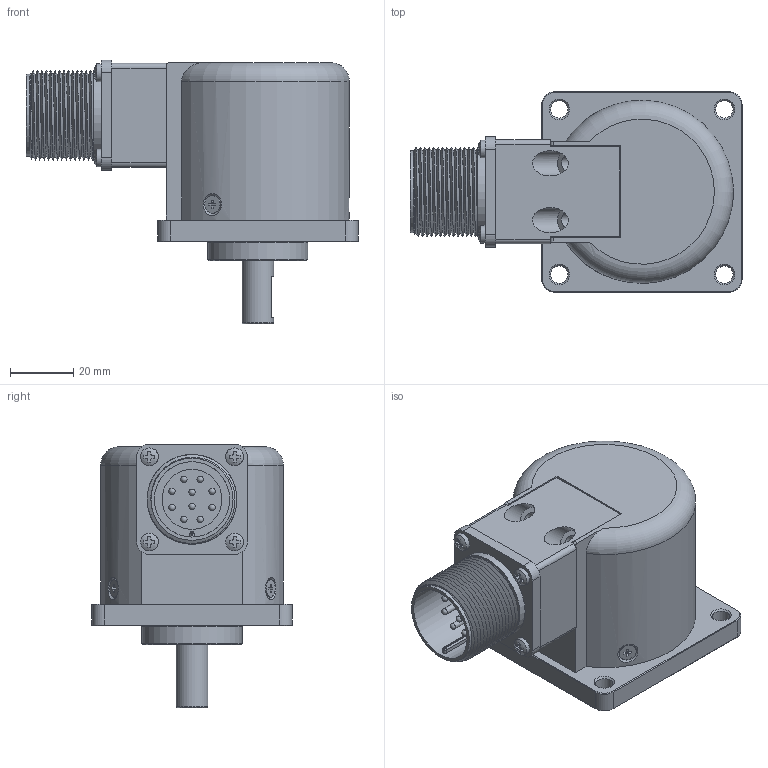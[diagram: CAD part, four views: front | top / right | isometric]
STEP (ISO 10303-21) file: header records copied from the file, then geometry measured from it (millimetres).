
FILE_DESCRIPTION( ( 'Unknown' ), '1' );
FILE_NAME( 'C:/Users/malfermoa/Desktop/step/EL_63D_albero 10 X uscita MR.stp', 'Unknown', ( 'Unknown' ), ( 'Unknown' ), 'PSStep 15.0.49', 'Unknown', ' ' );
FILE_SCHEMA( ( 'AUTOMOTIVE_DESIGN { 1 0 10303 214 1 1 1 1 }' ) );
Length unit declared in the file: millimetre
Products named in the file (1): 41330183B1
Bounding box: 105.25 x 63.5 x 83.6 mm (x, y, z)
Volume: 105491.1 mm3; surface area: 61340.1 mm2
Topology: 1 solids, 9 shells, 689 faces, 1782 edges, 1147 vertices
Faces by surface type: plane 280, cylinder 238, bspline 63, cone 55, torus 41, sphere 12
Full cylindrical faces by diameter (mm): 2 x22, 2.05 x2, 2.2 x12, 2.459 x3, 2.5 x7, 2.6 x10, 3 x5, 3.5 x3, 4.5 x2, 5.5 x4, 5.6 x7, 6 x1, 7 x1, 8 x2, 10 x10, 10.5 x1, 11 x1, 12 x1, 13.8 x1, 19 x1, 20 x1, 22 x2, 23 x1, 23.9 x1, 25.2 x1, 26 x25, 26.2 x1, 28.4 x1, 31.75 x1, 49.6 x1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
Entity records: 40967 total; most frequent: CARTESIAN_POINT 21733, ORIENTED_EDGE 2780, DIRECTION 2754, EDGE_CURVE 1390, AXIS2_PLACEMENT_3D 1072, VERTEX_POINT 977, EDGE_LOOP 895, FACE_OUTER_BOUND 758
